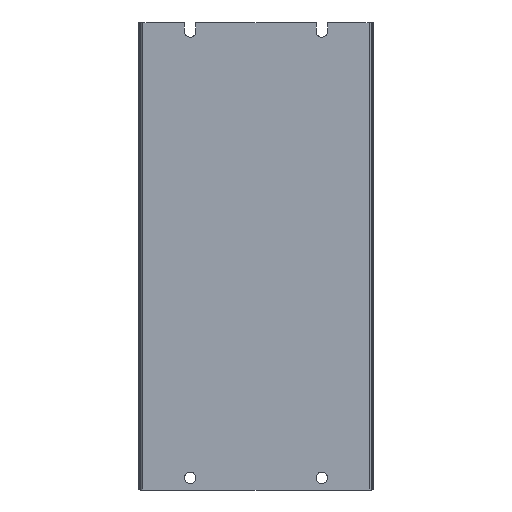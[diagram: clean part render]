
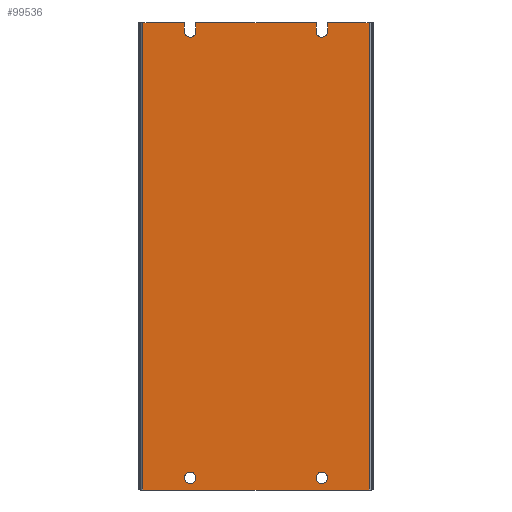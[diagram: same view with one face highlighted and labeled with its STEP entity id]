
A CAD part, front view. The second image highlights one B-rep face of the part: STEP entity #99536.
In plain terms, the highlighted planar face has unit normal (0, -1, 0).
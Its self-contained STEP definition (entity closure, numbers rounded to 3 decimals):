
#97580=DIRECTION('',(0.,0.,-1.));
#97581=VECTOR('',#97580,8.);
#97582=CARTESIAN_POINT('',(-54.75,-1.5,213.));
#97583=LINE('',#97582,#97581);
#97587=DIRECTION('',(1.,0.,0.));
#97588=VECTOR('',#97587,109.5);
#97589=CARTESIAN_POINT('',(-54.75,-1.5,213.));
#97590=LINE('',#97589,#97588);
#97594=DIRECTION('',(0.,0.,-1.));
#97595=VECTOR('',#97594,8.);
#97596=CARTESIAN_POINT('',(54.75,-1.5,213.));
#97597=LINE('',#97596,#97595);
#97601=CARTESIAN_POINT('',(60.,-1.5,205.));
#97602=DIRECTION('',(0.,1.,0.));
#97603=DIRECTION('',(1.,0.,0.));
#97604=AXIS2_PLACEMENT_3D('',#97601,#97602,#97603);
#97609=DIRECTION('',(0.,0.,-1.));
#97610=VECTOR('',#97609,8.);
#97611=CARTESIAN_POINT('',(65.25,-1.5,213.));
#97612=LINE('',#97611,#97610);
#97616=DIRECTION('',(0.,0.,-1.));
#97617=VECTOR('',#97616,8.);
#97618=CARTESIAN_POINT('',(-65.25,-1.5,213.));
#97619=LINE('',#97618,#97617);
#97623=CARTESIAN_POINT('',(-60.,-1.5,205.));
#97624=DIRECTION('',(0.,1.,0.));
#97625=DIRECTION('',(1.,0.,0.));
#97626=AXIS2_PLACEMENT_3D('',#97623,#97624,#97625);
#97631=CARTESIAN_POINT('',(60.,-1.5,-202.));
#97632=DIRECTION('',(0.,1.,0.));
#97633=DIRECTION('',(-1.,0.,0.));
#97634=AXIS2_PLACEMENT_3D('',#97631,#97632,#97633);
#97639=CARTESIAN_POINT('',(60.,-1.5,-202.));
#97640=DIRECTION('',(0.,1.,0.));
#97641=DIRECTION('',(1.,0.,0.));
#97642=AXIS2_PLACEMENT_3D('',#97639,#97640,#97641);
#97647=CARTESIAN_POINT('',(-60.,-1.5,-202.));
#97648=DIRECTION('',(0.,1.,0.));
#97649=DIRECTION('',(-1.,0.,0.));
#97650=AXIS2_PLACEMENT_3D('',#97647,#97648,#97649);
#97655=CARTESIAN_POINT('',(-60.,-1.5,-202.));
#97656=DIRECTION('',(0.,1.,0.));
#97657=DIRECTION('',(1.,0.,0.));
#97658=AXIS2_PLACEMENT_3D('',#97655,#97656,#97657);
#97670=DIRECTION('',(-1.,0.,0.));
#97671=VECTOR('',#97670,37.75);
#97672=CARTESIAN_POINT('',(-65.25,-1.5,213.));
#97673=LINE('',#97672,#97671);
#97712=DIRECTION('',(-1.,0.,0.));
#97713=VECTOR('',#97712,37.75);
#97714=CARTESIAN_POINT('',(103.,-1.5,213.));
#97715=LINE('',#97714,#97713);
#97741=DIRECTION('',(0.,0.,1.));
#97742=VECTOR('',#97741,426.);
#97743=CARTESIAN_POINT('',(-103.,-1.5,-213.));
#97744=LINE('',#97743,#97742);
#98362=DIRECTION('',(1.,0.,0.));
#98363=VECTOR('',#98362,206.);
#98364=CARTESIAN_POINT('',(-103.,-1.5,-213.));
#98365=LINE('',#98364,#98363);
#98405=DIRECTION('',(0.,0.,-1.));
#98406=VECTOR('',#98405,426.);
#98407=CARTESIAN_POINT('',(103.,-1.5,213.));
#98408=LINE('',#98407,#98406);
#99159=CARTESIAN_POINT('',(-65.25,-1.5,-202.));
#99160=CARTESIAN_POINT('',(-54.75,-1.5,-202.));
#99161=VERTEX_POINT('',#99159);
#99162=VERTEX_POINT('',#99160);
#99163=CARTESIAN_POINT('',(54.75,-1.5,-202.));
#99164=CARTESIAN_POINT('',(65.25,-1.5,-202.));
#99165=VERTEX_POINT('',#99163);
#99166=VERTEX_POINT('',#99164);
#99167=CARTESIAN_POINT('',(-54.75,-1.5,213.));
#99168=CARTESIAN_POINT('',(-54.75,-1.5,205.));
#99169=VERTEX_POINT('',#99167);
#99170=VERTEX_POINT('',#99168);
#99171=CARTESIAN_POINT('',(-65.25,-1.5,213.));
#99172=CARTESIAN_POINT('',(-65.25,-1.5,205.));
#99173=VERTEX_POINT('',#99171);
#99174=VERTEX_POINT('',#99172);
#99175=CARTESIAN_POINT('',(65.25,-1.5,213.));
#99176=CARTESIAN_POINT('',(65.25,-1.5,205.));
#99177=VERTEX_POINT('',#99175);
#99178=VERTEX_POINT('',#99176);
#99179=CARTESIAN_POINT('',(54.75,-1.5,213.));
#99180=CARTESIAN_POINT('',(54.75,-1.5,205.));
#99181=VERTEX_POINT('',#99179);
#99182=VERTEX_POINT('',#99180);
#99187=CARTESIAN_POINT('',(-103.,-1.5,213.));
#99188=VERTEX_POINT('',#99187);
#99189=CARTESIAN_POINT('',(-103.,-1.5,-213.));
#99190=VERTEX_POINT('',#99189);
#99203=CARTESIAN_POINT('',(103.,-1.5,-213.));
#99204=VERTEX_POINT('',#99203);
#99205=CARTESIAN_POINT('',(103.,-1.5,213.));
#99206=VERTEX_POINT('',#99205);
#99495=CARTESIAN_POINT('',(0.,-1.5,0.));
#99496=DIRECTION('',(0.,1.,0.));
#99497=DIRECTION('',(1.,0.,0.));
#99498=AXIS2_PLACEMENT_3D('',#99495,#99496,#99497);
#99499=PLANE('',#99498);
#99501=ORIENTED_EDGE('',*,*,#99500,.F.);
#99503=ORIENTED_EDGE('',*,*,#99502,.T.);
#99505=ORIENTED_EDGE('',*,*,#99504,.T.);
#99507=ORIENTED_EDGE('',*,*,#99506,.F.);
#99509=ORIENTED_EDGE('',*,*,#99508,.F.);
#99511=ORIENTED_EDGE('',*,*,#99510,.F.);
#99513=ORIENTED_EDGE('',*,*,#99512,.T.);
#99515=ORIENTED_EDGE('',*,*,#99514,.F.);
#99517=ORIENTED_EDGE('',*,*,#99516,.T.);
#99519=ORIENTED_EDGE('',*,*,#99518,.F.);
#99521=ORIENTED_EDGE('',*,*,#99520,.T.);
#99523=ORIENTED_EDGE('',*,*,#99522,.F.);
#99524=EDGE_LOOP('',(#99501,#99503,#99505,#99507,#99509,#99511,#99513,#99515,
#99517,#99519,#99521,#99523));
#99525=FACE_OUTER_BOUND('',#99524,.F.);
#99527=ORIENTED_EDGE('',*,*,#99526,.F.);
#99529=ORIENTED_EDGE('',*,*,#99528,.F.);
#99530=EDGE_LOOP('',(#99527,#99529));
#99531=FACE_BOUND('',#99530,.F.);
#99532=ORIENTED_EDGE('',*,*,#99475,.F.);
#99533=ORIENTED_EDGE('',*,*,#99489,.F.);
#99534=EDGE_LOOP('',(#99532,#99533));
#99535=FACE_BOUND('',#99534,.F.);
#99536=ADVANCED_FACE('',(#99525,#99531,#99535),#99499,.F.);
#97605=CIRCLE('',#97604,5.25);
#97627=CIRCLE('',#97626,5.25);
#97635=CIRCLE('',#97634,5.25);
#97643=CIRCLE('',#97642,5.25);
#97651=CIRCLE('',#97650,5.25);
#97659=CIRCLE('',#97658,5.25);
#99475=EDGE_CURVE('',#99161,#99162,#97651,.T.);
#99489=EDGE_CURVE('',#99162,#99161,#97659,.T.);
#99500=EDGE_CURVE('',#99169,#99170,#97583,.T.);
#99502=EDGE_CURVE('',#99169,#99181,#97590,.T.);
#99504=EDGE_CURVE('',#99181,#99182,#97597,.T.);
#99506=EDGE_CURVE('',#99178,#99182,#97605,.T.);
#99508=EDGE_CURVE('',#99177,#99178,#97612,.T.);
#99510=EDGE_CURVE('',#99206,#99177,#97715,.T.);
#99512=EDGE_CURVE('',#99206,#99204,#98408,.T.);
#99514=EDGE_CURVE('',#99190,#99204,#98365,.T.);
#99516=EDGE_CURVE('',#99190,#99188,#97744,.T.);
#99518=EDGE_CURVE('',#99173,#99188,#97673,.T.);
#99520=EDGE_CURVE('',#99173,#99174,#97619,.T.);
#99522=EDGE_CURVE('',#99170,#99174,#97627,.T.);
#99526=EDGE_CURVE('',#99165,#99166,#97635,.T.);
#99528=EDGE_CURVE('',#99166,#99165,#97643,.T.);
